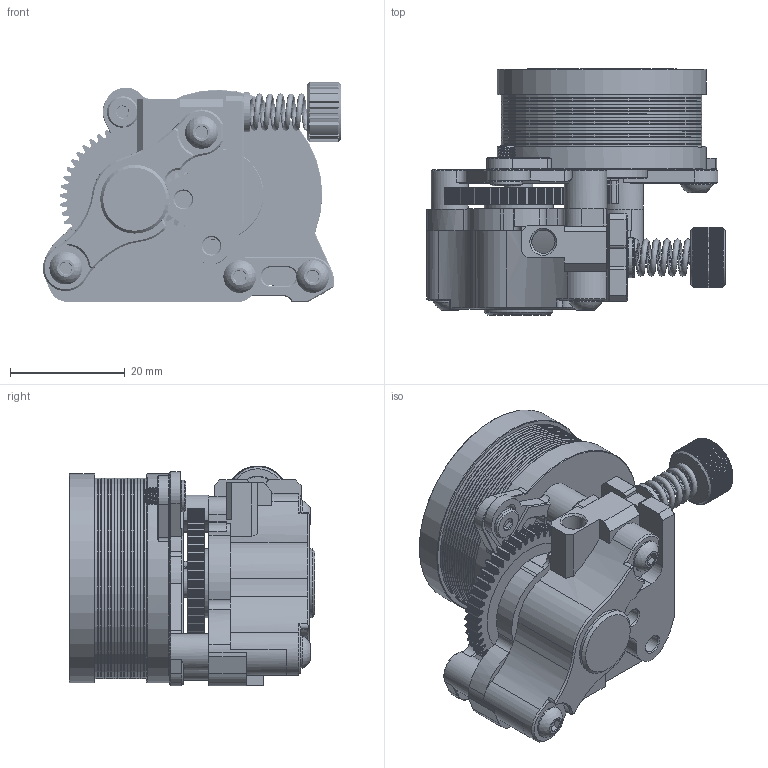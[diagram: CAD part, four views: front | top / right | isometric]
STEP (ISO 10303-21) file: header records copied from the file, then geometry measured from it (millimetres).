
FILE_DESCRIPTION(/* description */ (''),/* implementation_level */ '2;1');
FILE_NAME(/* name */ 'Vz-Hextrudort CNC.step',/* time_stamp */ '2023-11-28T16:40:37-08:00',/* author */ (''),/* organization */ (''),/* preprocessor_version */ 'ST-DEVELOPER v20',/* originating_system */ 'Autodesk Translation Framework v12.14.0.127',/* authorisation */ '');
FILE_SCHEMA (('AUTOMOTIVE_DESIGN { 1 0 10303 214 3 1 1 }'));
Length unit declared in the file: millimetre
Products named in the file (1): (Unsaved)
Bounding box: 52.06 x 42.9 x 38.38 mm (x, y, z)
Volume: 32424 mm3; surface area: 16370.3 mm2
Topology: 1 solids, 4 shells, 3871 faces, 11189 edges, 7368 vertices
Faces by surface type: plane 2764, cylinder 790, cone 231, bspline 41, torus 41, sphere 4
Full cylindrical faces by diameter (mm): 2 x2, 2.35 x117, 2.5 x39, 2.6 x2, 3 x93, 3.05 x3, 3.2 x7, 3.45 x2, 4.1 x2, 4.52 x5, 4.7 x4, 4.8 x5, 5 x2, 5.5 x1, 5.7 x4, 6.3 x1, 6.5 x1, 6.8 x1, 6.868 x1, 7 x2, 8 x1, 10.978 x1, 11.978 x1, 12 x2, 16 x1, 21 x2, 35 x16, 36.5 x2
Entity records: 243523 total; most frequent: CARTESIAN_POINT 143314, ORIENTED_EDGE 22378, DIRECTION 18810, EDGE_CURVE 11189, LINE 8074, VECTOR 8074, VERTEX_POINT 7368, AXIS2_PLACEMENT_3D 5368
